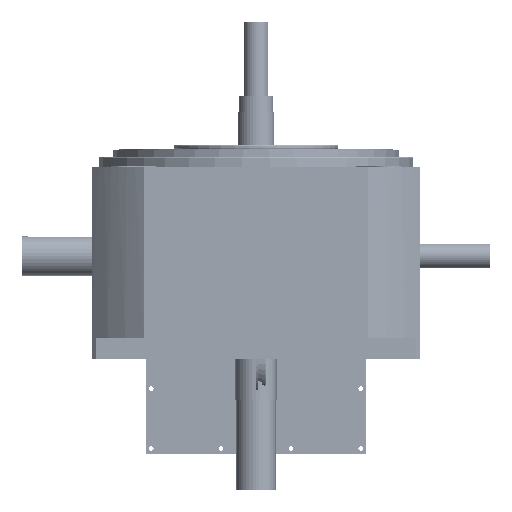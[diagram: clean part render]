
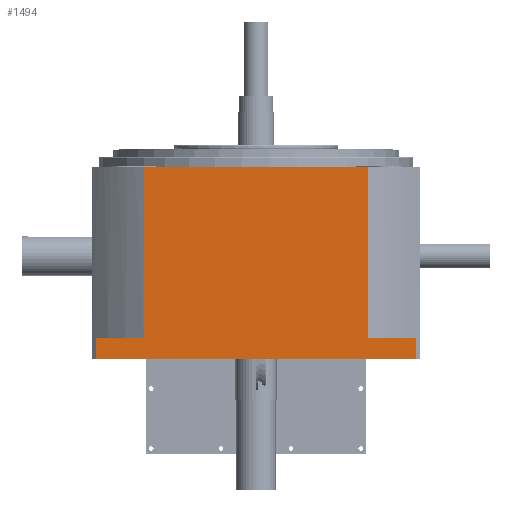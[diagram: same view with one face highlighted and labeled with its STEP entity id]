
A CAD part, left-side view. The second image highlights one B-rep face of the part: STEP entity #1494.
In plain terms, the highlighted planar face has unit normal (-1, 0, 0).
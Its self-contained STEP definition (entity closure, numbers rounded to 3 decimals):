
#1494 = ADVANCED_FACE( '', ( #4463 ), #4464, .F. );
#4463 = FACE_OUTER_BOUND( '', #10835, .T. );
#4464 = PLANE( '', #10836 );
#10835 = EDGE_LOOP( '', ( #17438, #17439, #17440, #17441, #17442, #17443, #17444, #17445 ) );
#10836 = AXIS2_PLACEMENT_3D( '', #17446, #17447, #17448 );
#17438 = ORIENTED_EDGE( '', *, *, #32491, .T. );
#17439 = ORIENTED_EDGE( '', *, *, #32849, .T. );
#17440 = ORIENTED_EDGE( '', *, *, #32543, .F. );
#17441 = ORIENTED_EDGE( '', *, *, #32850, .T. );
#17442 = ORIENTED_EDGE( '', *, *, #32833, .F. );
#17443 = ORIENTED_EDGE( '', *, *, #32851, .F. );
#17444 = ORIENTED_EDGE( '', *, *, #32794, .F. );
#17445 = ORIENTED_EDGE( '', *, *, #32852, .T. );
#17446 = CARTESIAN_POINT( '', ( -200., 200., 235. ) );
#17447 = DIRECTION( '', ( 1., 0., 0. ) );
#17448 = DIRECTION( '', ( 0., 1., 0. ) );
#32491 = EDGE_CURVE( '', #37543, #37541, #37544, .T. );
#32543 = EDGE_CURVE( '', #37643, #37644, #37645, .T. );
#32794 = EDGE_CURVE( '', #37981, #37983, #37984, .T. );
#32833 = EDGE_CURVE( '', #38053, #38055, #38056, .T. );
#32849 = EDGE_CURVE( '', #37541, #37644, #38072, .T. );
#32850 = EDGE_CURVE( '', #37643, #38055, #38073, .T. );
#32851 = EDGE_CURVE( '', #37983, #38053, #38074, .T. );
#32852 = EDGE_CURVE( '', #37981, #37543, #38075, .T. );
#37541 = VERTEX_POINT( '', #47545 );
#37543 = VERTEX_POINT( '', #47548 );
#37544 = LINE( '', #47549, #47550 );
#37643 = VERTEX_POINT( '', #47726 );
#37644 = VERTEX_POINT( '', #47727 );
#37645 = LINE( '', #47728, #47729 );
#37981 = VERTEX_POINT( '', #48514 );
#37983 = VERTEX_POINT( '', #48517 );
#37984 = LINE( '', #48518, #48519 );
#38053 = VERTEX_POINT( '', #48606 );
#38055 = VERTEX_POINT( '', #48608 );
#38056 = LINE( '', #48609, #48610 );
#38072 = LINE( '', #48630, #48631 );
#38073 = LINE( '', #48632, #48633 );
#38074 = LINE( '', #48634, #48635 );
#38075 = LINE( '', #48636, #48637 );
#47545 = CARTESIAN_POINT( '', ( -200., -195., 0. ) );
#47548 = CARTESIAN_POINT( '', ( -200., 195., 0. ) );
#47549 = CARTESIAN_POINT( '', ( -200., 200., 0. ) );
#47550 = VECTOR( '', #65378, 1000. );
#47726 = CARTESIAN_POINT( '', ( -200., -136.588, 25. ) );
#47727 = CARTESIAN_POINT( '', ( -200., -195., 25. ) );
#47728 = CARTESIAN_POINT( '', ( -200., -136.588, 25. ) );
#47729 = VECTOR( '', #65485, 1000. );
#48514 = CARTESIAN_POINT( '', ( -200., 195., 25. ) );
#48517 = CARTESIAN_POINT( '', ( -200., 136.588, 25. ) );
#48518 = CARTESIAN_POINT( '', ( -200., 200., 25. ) );
#48519 = VECTOR( '', #65922, 1000. );
#48606 = CARTESIAN_POINT( '', ( -200., 136.588, 233. ) );
#48608 = CARTESIAN_POINT( '', ( -200., -136.588, 233. ) );
#48609 = CARTESIAN_POINT( '', ( -200., 200., 233. ) );
#48610 = VECTOR( '', #65998, 1000. );
#48630 = CARTESIAN_POINT( '', ( -200., -195., 235. ) );
#48631 = VECTOR( '', #66021, 1000. );
#48632 = CARTESIAN_POINT( '', ( -200., -136.588, 25. ) );
#48633 = VECTOR( '', #66022, 1000. );
#48634 = CARTESIAN_POINT( '', ( -200., 136.588, 25. ) );
#48635 = VECTOR( '', #66023, 1000. );
#48636 = CARTESIAN_POINT( '', ( -200., 195., 235. ) );
#48637 = VECTOR( '', #66024, 1000. );
#65378 = DIRECTION( '', ( 0., -1., 0. ) );
#65485 = DIRECTION( '', ( 0., -1., 0. ) );
#65922 = DIRECTION( '', ( 0., -1., 0. ) );
#65998 = DIRECTION( '', ( 0., -1., 0. ) );
#66021 = DIRECTION( '', ( 0., 0., 1. ) );
#66022 = DIRECTION( '', ( 0., 0., 1. ) );
#66023 = DIRECTION( '', ( 0., 0., 1. ) );
#66024 = DIRECTION( '', ( 0., 0., -1. ) );
